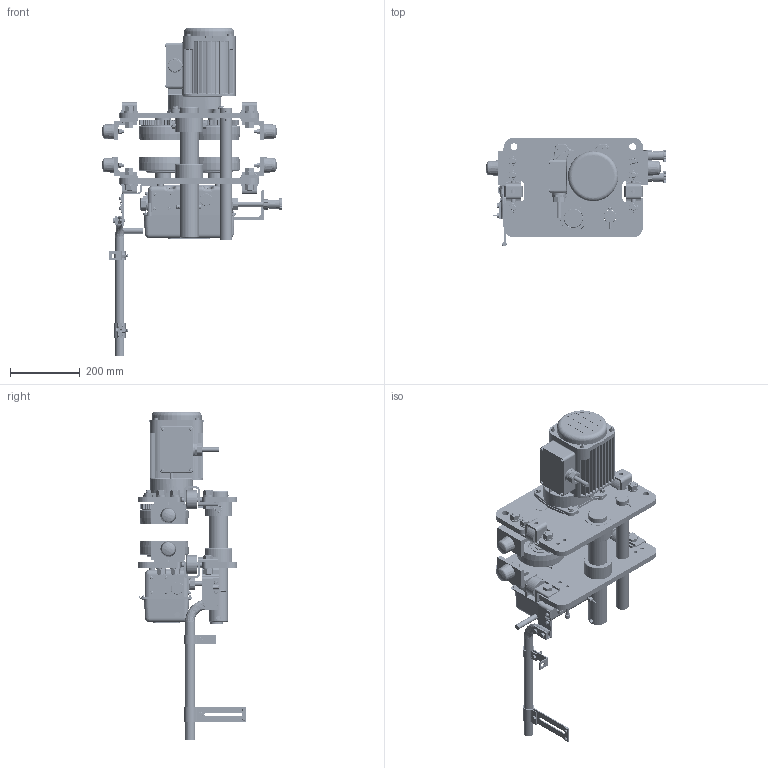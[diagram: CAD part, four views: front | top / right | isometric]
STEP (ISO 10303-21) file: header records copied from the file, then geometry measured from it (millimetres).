
FILE_DESCRIPTION (( 'STEP AP214' ), '1' );
FILE_NAME ('MR2050LD.STEP', '2026-08-10T15:36:15', ( '' ), ( '' ), 'SwSTEP 2.0', 'SolidWorks 2026', '' );
FILE_SCHEMA (( 'AUTOMOTIVE_DESIGN' ));
Length unit declared in the file: inch
Products named in the file (89): 9012711_9012711; MS162030_MS162030; 9093424_9093424; MR1GS5201; MR1GS1211; MR2SHM50S9A7; MR1GS9202; MR1DS9496; MR1GS9325; MR1GS9204; MR1GS1211 ATTACHMENT; 9093439_9093439; 9093329_9093329; MS1101050; 9009448_9009448; MR1DS1493; MR1DS9401_1 - 8 TON & 10 L TON; MR1GS9101_MR1GS9101; ECP5924AA1; MS164050; MR1GS1211 BODY; MR2050LD; 70131XX_For (N)ER2M (7013106); M7SE050S9101; 12-4 (MR2); MR1DS1301; KITO-WASHER; MR2SHM10S9A8; MR1DS9248; MS006050; M7SE050S9102; MR1GS9324; 16-6P (MR2); ECP5924AH; MR1GS9131_MR1GS9131; 6307Z Bearing; ECP2108AC; l angle_ai_L6x3.5x0.375x2.5; MS161050; ES558003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
Assembly tree (217 placements, depth 5):
  MR2050LD
    MR1GS5201
      MR1GS9201
      MR1GS9203  x2
      MR1GS9204
    MR1GS5202
      MR1GS9202
      MR1GS9203  x2
      MR1GS9205
    MR1GS9634  x4
    90933118_M16 X 2.0 X 55 HHCS  x8
    MR1FS9631  x4
    9012711_9012711  x8
    9093424_9093424  x4
    MS1101050  x2
      M7SE050S9101
      J1SR000-00080_J1SR000-00080
      6307Z Bearing
    MS1102050  x2
      M7SE050S9102
      J1SR000-00080_J1SR000-00080
      6307Z Bearing
    MS104050  x4
    9047135_9047135  x4
    9012715_9012715  x12
    9093439_9093439  x12
    90933116_90933116  x4
    70131XX_For (N)ER2M (7013106)
      MR1DS9411
      MR1DS9401_1 - 8 TON & 10 L TON
      MR1DS9421
      MS554010  x12
      MR2DI2811
        ECP5924AH
        MS527010
        MR2DI1811
        ES558003  x4
      MS517010  x4
      MS551010  x4
      ECP5924AC1
      ECP5924AB1
      ECP5924AD1
      MS527010
      E6F630010S  x2
      60704
        ECP5924AA1
        ECP5924AD1
        ECP5924AC1
        KITO-WASHER
        ECP5924AB1
      MR2DI1768_DEFAULT  x2
        60704
          ECP5924AA1
          ECP5924AD1
          ECP5924AC1
          KITO-WASHER
          ECP5924AB1
        16-6P (MR2)
        ECP2108AC
        ECP6916AA
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Bounding box: 517.28 x 310.04 x 940.23 mm (x, y, z)
Volume: 13743559.1 mm3; surface area: 2763486.3 mm2
Topology: 248 solids, 264 shells, 9755 faces, 25762 edges, 16815 vertices
Faces by surface type: plane 4640, cylinder 2581, cone 1354, bspline 741, torus 407, sphere 32
Entity records: 190342 total; most frequent: CARTESIAN_POINT 78134, ORIENTED_EDGE 23148, DIRECTION 21006, EDGE_CURVE 11576, VERTEX_POINT 7773, AXIS2_PLACEMENT_3D 7675, LINE 5656, VECTOR 5656
